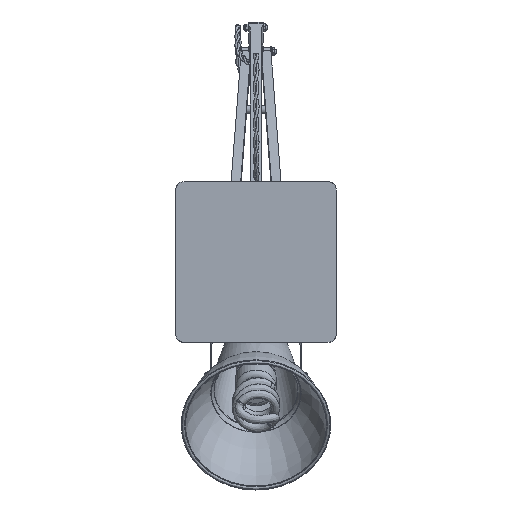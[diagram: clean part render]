
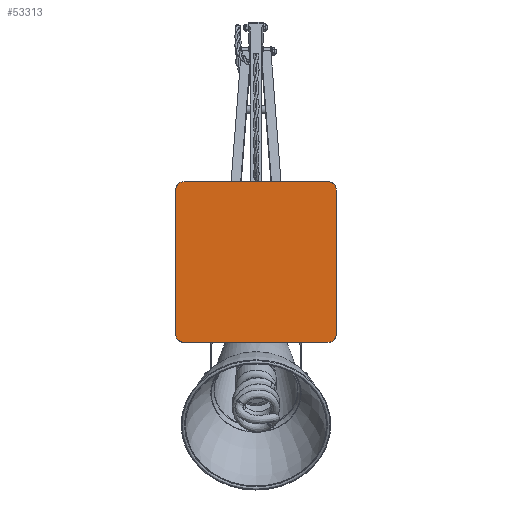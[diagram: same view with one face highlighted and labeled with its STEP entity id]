
A CAD part, front view. The second image highlights one B-rep face of the part: STEP entity #53313.
In plain terms, the highlighted planar face has unit normal (0, -1, 0).
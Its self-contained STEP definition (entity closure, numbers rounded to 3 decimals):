
#3016 = CARTESIAN_POINT ( 'NONE',  ( -113.864, -367.106, 154.429 ) ) ;
#4007 = DIRECTION ( 'NONE',  ( 0., 0., -1. ) ) ;
#4497 = CARTESIAN_POINT ( 'NONE',  ( 37.636, -367.106, 146.429 ) ) ;
#7096 = ORIENTED_EDGE ( 'NONE', *, *, #79257, .F. ) ;
#11518 = VECTOR ( 'NONE', #75865, 1000. ) ;
#12035 = PLANE ( 'NONE',  #14455 ) ;
#12265 = EDGE_CURVE ( 'Defeatured_6291+Defeatured_6295+Defeatured_6296+Defeatured_6299', #71163, #82080, #38668, .T. ) ;
#12350 = EDGE_LOOP ( 'NONE', ( #39063, #17573, #107258, #81408, #7096, #96592, #70229, #36588 ) ) ;
#14455 = AXIS2_PLACEMENT_3D ( 'NONE', #104008, #54065, #4007 ) ;
#15253 = EDGE_CURVE ( 'Defeatured_6295+Defeatured_6296+Defeatured_6291+Defeatured_6294', #71163, #98426, #107573, .T. ) ;
#15607 = DIRECTION ( 'NONE',  ( -1., 0., 0. ) ) ;
#17452 = CARTESIAN_POINT ( 'NONE',  ( 37.636, -367.106, 154.429 ) ) ;
#17573 = ORIENTED_EDGE ( 'NONE', *, *, #15253, .T. ) ;
#18039 = CARTESIAN_POINT ( 'NONE',  ( -113.864, -367.106, 146.429 ) ) ;
#18746 = AXIS2_PLACEMENT_3D ( 'NONE', #34889, #93247, #43340 ) ;
#21792 = AXIS2_PLACEMENT_3D ( 'NONE', #35630, #93973, #44065 ) ;
#22918 = CARTESIAN_POINT ( 'NONE',  ( -105.864, -367.106, 2.929 ) ) ;
#22935 = VERTEX_POINT ( 'NONE', #42060 ) ;
#22990 = DIRECTION ( 'NONE',  ( 0., -1., 0. ) ) ;
#25559 = VECTOR ( 'NONE', #33589, 1000. ) ;
#33589 = DIRECTION ( 'NONE',  ( 1., 0., 0. ) ) ;
#34547 = AXIS2_PLACEMENT_3D ( 'NONE', #46901, #105227, #55288 ) ;
#34889 = CARTESIAN_POINT ( 'NONE',  ( 29.636, -367.106, 146.429 ) ) ;
#35630 = CARTESIAN_POINT ( 'NONE',  ( -105.864, -367.106, 146.429 ) ) ;
#36588 = ORIENTED_EDGE ( 'NONE', *, *, #90342, .T. ) ;
#38668 = LINE ( 'NONE', #3016, #83063 ) ;
#38675 = CIRCLE ( 'NONE', #21792, 8. ) ;
#39063 = ORIENTED_EDGE ( 'NONE', *, *, #12265, .F. ) ;
#42060 = CARTESIAN_POINT ( 'NONE',  ( -105.864, -367.106, 154.429 ) ) ;
#43340 = DIRECTION ( 'NONE',  ( 0., 0., -1. ) ) ;
#44065 = DIRECTION ( 'NONE',  ( 0., 0., -1. ) ) ;
#46868 = EDGE_CURVE ( 'Defeatured_6294+Defeatured_6295+Defeatured_6297+Defeatured_6296', #73959, #98426, #49220, .T. ) ;
#46901 = CARTESIAN_POINT ( 'NONE',  ( 29.636, -367.106, 10.929 ) ) ;
#49220 = LINE ( 'NONE', #107231, #71423 ) ;
#50799 = VERTEX_POINT ( 'NONE', #70788 ) ;
#52001 = DIRECTION ( 'NONE',  ( 0., 0., 1. ) ) ;
#52916 = VERTEX_POINT ( 'NONE', #4497 ) ;
#53313 = ADVANCED_FACE ( 'Defeatured_6295', ( #88987 ), #12035, .T. ) ;
#54065 = DIRECTION ( 'NONE',  ( 0., -1., 0. ) ) ;
#55288 = DIRECTION ( 'NONE',  ( 0., 0., -1. ) ) ;
#61116 = EDGE_CURVE ( 'Defeatured_6295+Defeatured_6297+Defeatured_6294+Defeatured_6293', #73959, #79061, #87724, .T. ) ;
#68817 = EDGE_CURVE ( 'Defeatured_6292+Defeatured_6295+Defeatured_6299+Defeatured_6298', #22935, #50799, #89485, .T. ) ;
#70229 = ORIENTED_EDGE ( 'NONE', *, *, #68817, .F. ) ;
#70788 = CARTESIAN_POINT ( 'NONE',  ( 29.636, -367.106, 154.429 ) ) ;
#71163 = VERTEX_POINT ( 'NONE', #77768 ) ;
#71423 = VECTOR ( 'NONE', #15607, 1000. ) ;
#72583 = EDGE_CURVE ( 'Defeatured_6295+Defeatured_6298+Defeatured_6293+Defeatured_6292', #52916, #50799, #78750, .T. ) ;
#72978 = CARTESIAN_POINT ( 'NONE',  ( 29.636, -367.106, 2.929 ) ) ;
#73012 = CARTESIAN_POINT ( 'NONE',  ( -105.864, -367.106, 10.929 ) ) ;
#73959 = VERTEX_POINT ( 'NONE', #72978 ) ;
#75543 = LINE ( 'NONE', #17452, #11518 ) ;
#75865 = DIRECTION ( 'NONE',  ( 0., 0., -1. ) ) ;
#77768 = CARTESIAN_POINT ( 'NONE',  ( -113.864, -367.106, 10.929 ) ) ;
#78750 = CIRCLE ( 'NONE', #18746, 8. ) ;
#79061 = VERTEX_POINT ( 'NONE', #99191 ) ;
#79257 = EDGE_CURVE ( 'Defeatured_6293+Defeatured_6295+Defeatured_6298+Defeatured_6297', #52916, #79061, #75543, .T. ) ;
#81365 = DIRECTION ( 'NONE',  ( 0., 0., -1. ) ) ;
#81408 = ORIENTED_EDGE ( 'NONE', *, *, #61116, .T. ) ;
#82080 = VERTEX_POINT ( 'NONE', #18039 ) ;
#83063 = VECTOR ( 'NONE', #52001, 1000. ) ;
#83574 = CARTESIAN_POINT ( 'NONE',  ( -113.864, -367.106, 154.429 ) ) ;
#87724 = CIRCLE ( 'NONE', #34547, 8. ) ;
#88987 = FACE_OUTER_BOUND ( 'NONE', #12350, .T. ) ;
#89485 = LINE ( 'NONE', #83574, #25559 ) ;
#90342 = EDGE_CURVE ( 'Defeatured_6295+Defeatured_6299+Defeatured_6292+Defeatured_6291', #22935, #82080, #38675, .T. ) ;
#93247 = DIRECTION ( 'NONE',  ( 0., -1., 0. ) ) ;
#93360 = AXIS2_PLACEMENT_3D ( 'NONE', #73012, #22990, #81365 ) ;
#93973 = DIRECTION ( 'NONE',  ( 0., -1., 0. ) ) ;
#96592 = ORIENTED_EDGE ( 'NONE', *, *, #72583, .T. ) ;
#98426 = VERTEX_POINT ( 'NONE', #22918 ) ;
#99191 = CARTESIAN_POINT ( 'NONE',  ( 37.636, -367.106, 10.929 ) ) ;
#104008 = CARTESIAN_POINT ( 'NONE',  ( -113.864, -367.106, 154.429 ) ) ;
#105227 = DIRECTION ( 'NONE',  ( 0., -1., 0. ) ) ;
#107231 = CARTESIAN_POINT ( 'NONE',  ( -113.864, -367.106, 2.929 ) ) ;
#107258 = ORIENTED_EDGE ( 'NONE', *, *, #46868, .F. ) ;
#107573 = CIRCLE ( 'NONE', #93360, 8. ) ;
